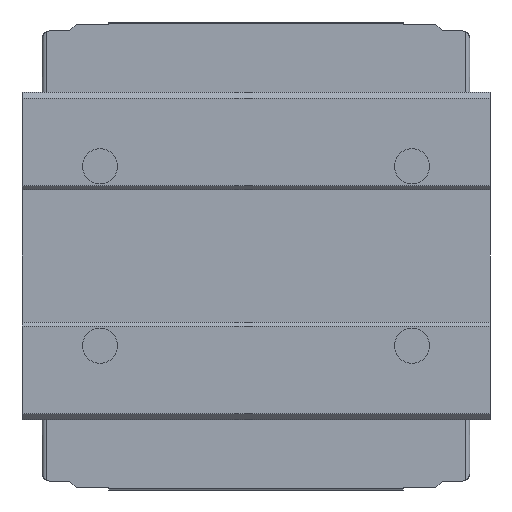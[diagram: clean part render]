
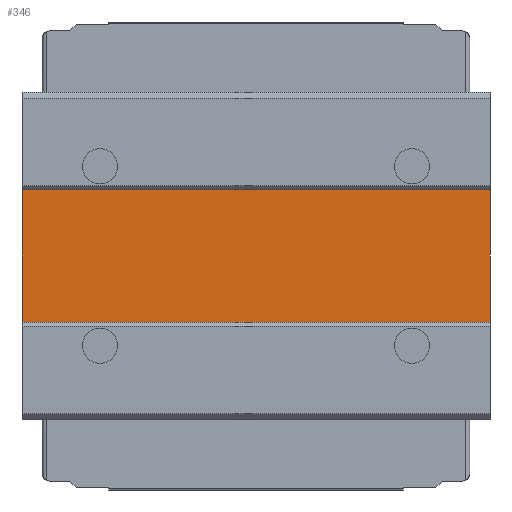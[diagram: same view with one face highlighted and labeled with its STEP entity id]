
A CAD part, front view. The second image highlights one B-rep face of the part: STEP entity #346.
In plain terms, the highlighted planar face has unit normal (0, -1, 0).
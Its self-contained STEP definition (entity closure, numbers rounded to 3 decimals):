
#346 = ADVANCED_FACE( '', ( #730 ), #731, .F. );
#730 = FACE_OUTER_BOUND( '', #1150, .T. );
#731 = PLANE( '', #1151 );
#1150 = EDGE_LOOP( '', ( #1998, #1999, #2000, #2001 ) );
#1151 = AXIS2_PLACEMENT_3D( '', #2002, #2003, #2004 );
#1998 = ORIENTED_EDGE( '', *, *, #2736, .T. );
#1999 = ORIENTED_EDGE( '', *, *, #2586, .F. );
#2000 = ORIENTED_EDGE( '', *, *, #2596, .F. );
#2001 = ORIENTED_EDGE( '', *, *, #2618, .T. );
#2002 = CARTESIAN_POINT( '', ( 30., 0.5, 8.5 ) );
#2003 = DIRECTION( '', ( 0., 1., 0. ) );
#2004 = DIRECTION( '', ( 0., 0., 1. ) );
#2586 = EDGE_CURVE( '', #3148, #3143, #3150, .T. );
#2596 = EDGE_CURVE( '', #3164, #3148, #3166, .T. );
#2618 = EDGE_CURVE( '', #3164, #3196, #3198, .T. );
#2736 = EDGE_CURVE( '', #3196, #3143, #3363, .T. );
#3143 = VERTEX_POINT( '', #3900 );
#3148 = VERTEX_POINT( '', #3907 );
#3150 = LINE( '', #3910, #3911 );
#3164 = VERTEX_POINT( '', #3931 );
#3166 = LINE( '', #3934, #3935 );
#3196 = VERTEX_POINT( '', #3977 );
#3198 = LINE( '', #3980, #3981 );
#3363 = LINE( '', #4219, #4220 );
#3900 = CARTESIAN_POINT( '', ( -30., 0.5, -8.5 ) );
#3907 = CARTESIAN_POINT( '', ( 30., 0.5, -8.5 ) );
#3910 = CARTESIAN_POINT( '', ( 30., 0.5, -8.5 ) );
#3911 = VECTOR( '', #4623, 1000. );
#3931 = CARTESIAN_POINT( '', ( 30., 0.5, 8.5 ) );
#3934 = CARTESIAN_POINT( '', ( 30., 0.5, 8.5 ) );
#3935 = VECTOR( '', #4631, 1000. );
#3977 = CARTESIAN_POINT( '', ( -30., 0.5, 8.5 ) );
#3980 = CARTESIAN_POINT( '', ( 30., 0.5, 8.5 ) );
#3981 = VECTOR( '', #4657, 1000. );
#4219 = CARTESIAN_POINT( '', ( -30., 0.5, 8.5 ) );
#4220 = VECTOR( '', #4779, 1000. );
#4623 = DIRECTION( '', ( -1., 0., 0. ) );
#4631 = DIRECTION( '', ( 0., 0., -1. ) );
#4657 = DIRECTION( '', ( -1., 0., 0. ) );
#4779 = DIRECTION( '', ( 0., 0., -1. ) );
